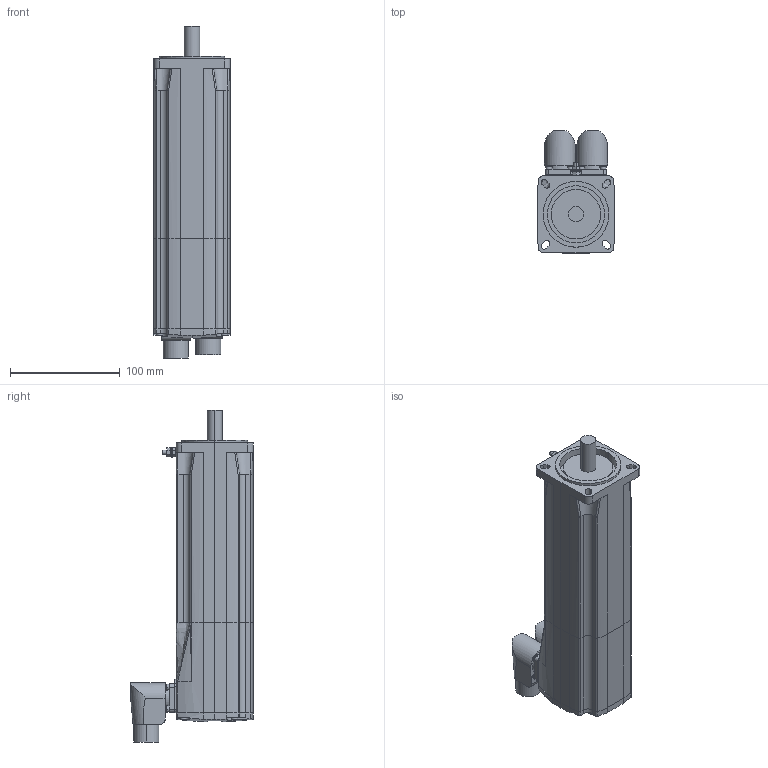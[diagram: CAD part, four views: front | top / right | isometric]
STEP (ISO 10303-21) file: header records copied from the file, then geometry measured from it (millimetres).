
FILE_DESCRIPTION (( 'STEP AP214' ), '1' );
FILE_NAME ('SH30703x0xF2100.STEP', '2013-11-29T08:01:43', ( 'Windows User' ), ( 'Schneider-Electric' ), 'SwSTEP 2.0', 'SolidWorks 2010', '' );
FILE_SCHEMA (( 'AUTOMOTIVE_DESIGN' ));
Length unit declared in the file: millimetre
Products named in the file (7): 1-100011014_K-TOPFGEHÄUSE SH3-BSH-070X_000_Topfgehäuse SH3-BSH-0703 ohne Passfeder; 1-100011011_K-ERDUNGSBOLZEN M4_000; 1-100010970_K-DECKEL MH3-070X_000_Deckel SH3-070x; 1-100008562_LAGERSCHILD SH3-0703-F_VM0_Lagerschild SH3-0701+0702-F; K-POWER-CONINVERS-ABGEWIN_POWER-CONINVERS-ABGEWINKELT_000_mit Bremse; K-ENCODER-CONINVERS-ABGEW_ENCODER-CONINVERS-ABGEWINKELT_000_Single- MultiTurn; SH30703x0xF2100
Assembly tree (6 placements, depth 2):
  SH30703x0xF2100
    1-100011011_K-ERDUNGSBOLZEN M4_000
    1-100011014_K-TOPFGEHÄUSE SH3-BSH-070X_000_Topfgehäuse SH3-BSH-0703 ohne Passfeder
    1-100010970_K-DECKEL MH3-070X_000_Deckel SH3-070x
    1-100008562_LAGERSCHILD SH3-0703-F_VM0_Lagerschild SH3-0701+0702-F
    K-ENCODER-CONINVERS-ABGEW_ENCODER-CONINVERS-ABGEWINKELT_000_Single- MultiTurn
    K-POWER-CONINVERS-ABGEWIN_POWER-CONINVERS-ABGEWINKELT_000_mit Bremse
Bounding box: 70 x 111.4 x 302.45 mm (x, y, z)
Volume: 1163011.7 mm3; surface area: 114050.9 mm2
Topology: 6 solids, 14 shells, 460 faces, 1145 edges, 761 vertices
Faces by surface type: cylinder 217, plane 175, bspline 45, torus 16, cone 5, sphere 2
Entity records: 16976 total; most frequent: CARTESIAN_POINT 5712, ORIENTED_EDGE 2290, DIRECTION 2286, EDGE_CURVE 1145, AXIS2_PLACEMENT_3D 887, VERTEX_POINT 761, EDGE_LOOP 516, VECTOR 512
